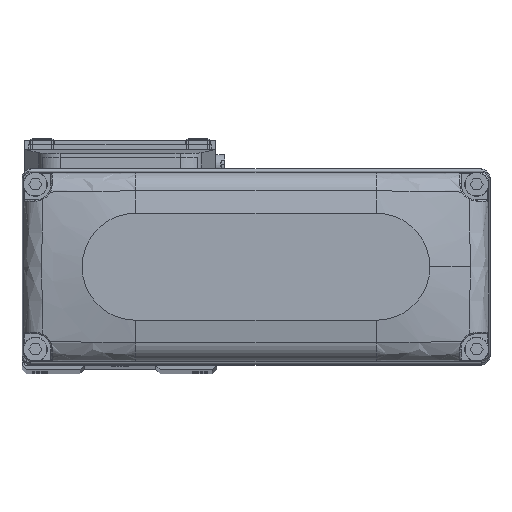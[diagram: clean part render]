
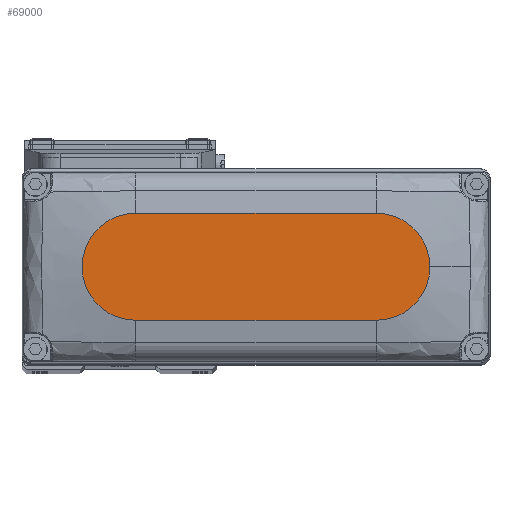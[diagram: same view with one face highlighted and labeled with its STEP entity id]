
A CAD part, top view. The second image highlights one B-rep face of the part: STEP entity #69000.
In plain terms, the highlighted planar face has unit normal (0, 0, 1).
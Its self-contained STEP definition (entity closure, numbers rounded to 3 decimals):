
#3456 = EDGE_CURVE ( 'NONE', #25636, #19645, #58414, .T. ) ;
#7370 = CARTESIAN_POINT ( 'NONE',  ( -27., 0., 25. ) ) ;
#8007 = LINE ( 'NONE', #31922, #25534 ) ;
#8264 = CIRCLE ( 'NONE', #52100, 12. ) ;
#10711 = CARTESIAN_POINT ( 'NONE',  ( 0., 0., 25. ) ) ;
#12568 = DIRECTION ( 'NONE',  ( 1., 0., 0. ) ) ;
#13531 = DIRECTION ( 'NONE',  ( 0., 0., 1. ) ) ;
#17170 = AXIS2_PLACEMENT_3D ( 'NONE', #67269, #13531, #37453 ) ;
#18698 = ORIENTED_EDGE ( 'NONE', *, *, #44893, .T. ) ;
#19583 = CARTESIAN_POINT ( 'NONE',  ( -27., -12., 25. ) ) ;
#19645 = VERTEX_POINT ( 'NONE', #77252 ) ;
#21191 = VERTEX_POINT ( 'NONE', #19583 ) ;
#23248 = ORIENTED_EDGE ( 'NONE', *, *, #3456, .T. ) ;
#24585 = AXIS2_PLACEMENT_3D ( 'NONE', #42361, #66293, #12568 ) ;
#25534 = VECTOR ( 'NONE', #55851, 1000. ) ;
#25636 = VERTEX_POINT ( 'NONE', #30635 ) ;
#25693 = LINE ( 'NONE', #49622, #68493 ) ;
#30088 = VERTEX_POINT ( 'NONE', #32093 ) ;
#30635 = CARTESIAN_POINT ( 'NONE',  ( 39., 0., 25. ) ) ;
#31287 = DIRECTION ( 'NONE',  ( 0., 0., 1. ) ) ;
#31922 = CARTESIAN_POINT ( 'NONE',  ( -27., 12., 25. ) ) ;
#32093 = CARTESIAN_POINT ( 'NONE',  ( 27., -12., 25. ) ) ;
#34621 = DIRECTION ( 'NONE',  ( 0., 0., 1. ) ) ;
#37453 = DIRECTION ( 'NONE',  ( 1., 0., 0. ) ) ;
#39226 = EDGE_CURVE ( 'NONE', #19645, #55438, #8007, .T. ) ;
#40512 = FACE_OUTER_BOUND ( 'NONE', #47544, .T. ) ;
#42361 = CARTESIAN_POINT ( 'NONE',  ( 27., 0., 25. ) ) ;
#44893 = EDGE_CURVE ( 'NONE', #55438, #21191, #8264, .T. ) ;
#45411 = EDGE_CURVE ( 'NONE', #21191, #30088, #25693, .T. ) ;
#47544 = EDGE_LOOP ( 'NONE', ( #54278, #18698, #56613, #60099, #23248 ) ) ;
#49622 = CARTESIAN_POINT ( 'NONE',  ( -27., -12., 25. ) ) ;
#50996 = CIRCLE ( 'NONE', #17170, 12. ) ;
#51064 = EDGE_CURVE ( 'NONE', #30088, #25636, #50996, .T. ) ;
#52100 = AXIS2_PLACEMENT_3D ( 'NONE', #7370, #31287, #55218 ) ;
#54278 = ORIENTED_EDGE ( 'NONE', *, *, #39226, .T. ) ;
#55218 = DIRECTION ( 'NONE',  ( 1., 0., 0. ) ) ;
#55438 = VERTEX_POINT ( 'NONE', #67338 ) ;
#55851 = DIRECTION ( 'NONE',  ( -1., 0., 0. ) ) ;
#56613 = ORIENTED_EDGE ( 'NONE', *, *, #45411, .T. ) ;
#58414 = CIRCLE ( 'NONE', #24585, 12. ) ;
#58541 = DIRECTION ( 'NONE',  ( 1., 0., 0. ) ) ;
#60099 = ORIENTED_EDGE ( 'NONE', *, *, #51064, .T. ) ;
#60360 = AXIS2_PLACEMENT_3D ( 'NONE', #10711, #34621, #58541 ) ;
#64447 = PLANE ( 'NONE',  #60360 ) ;
#66293 = DIRECTION ( 'NONE',  ( 0., 0., 1. ) ) ;
#67269 = CARTESIAN_POINT ( 'NONE',  ( 27., 0., 25. ) ) ;
#67338 = CARTESIAN_POINT ( 'NONE',  ( -27., 12., 25. ) ) ;
#68493 = VECTOR ( 'NONE', #73525, 1000. ) ;
#69000 = ADVANCED_FACE ( 'NONE', ( #40512 ), #64447, .T. ) ;
#73525 = DIRECTION ( 'NONE',  ( 1., 0., 0. ) ) ;
#77252 = CARTESIAN_POINT ( 'NONE',  ( 27., 12., 25. ) ) ;
